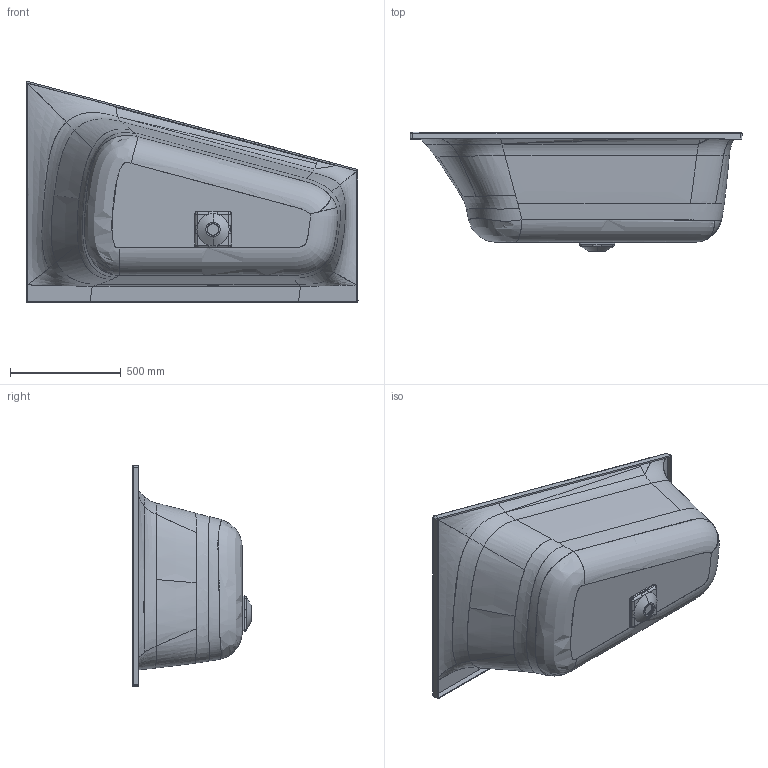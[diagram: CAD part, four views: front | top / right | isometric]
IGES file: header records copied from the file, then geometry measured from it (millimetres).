
Start section: SolidWorks IGES file using analytic representation for surfaces
Global section: file name: D:\Users\M.Szymanski\Desktop\Wanny\Thasos\03. do przegrania\WTL_THASOS_100x150.IGS; native system: SolidWorks 2011; preprocessor: SolidWorks 2011; author: M.Szymanski; date: 180427.124619; units: millimetre
Bounding box: 1500 x 539 x 997.62 mm (x, y, z)
Surface area: 4984881.5 mm2 (no closed solid volume)
Topology: 0 solids, 0 shells, 264 faces, 3908 edges, 3912 vertices
Faces by surface type: bspline 201, revolution 63
